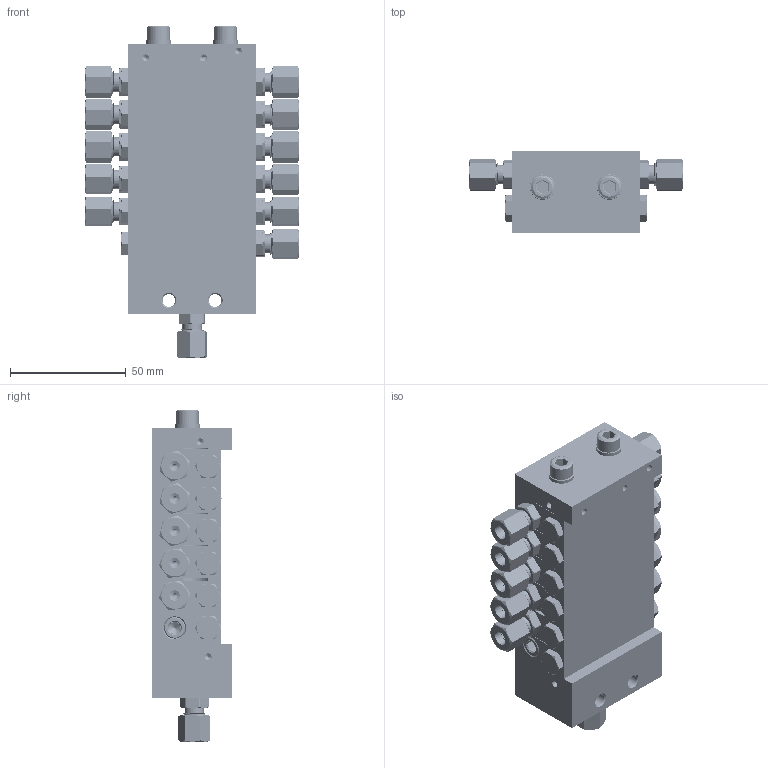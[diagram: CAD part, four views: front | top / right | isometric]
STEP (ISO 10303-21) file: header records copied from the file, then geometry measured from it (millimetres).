
FILE_DESCRIPTION (( 'STEP AP214' ), '1' );
FILE_NAME ('STW_XV_0143_11_050_11_Auslässe.STEP', '2026-01-28T14:58:48', ( '' ), ( '' ), 'SwSTEP 2.0', 'SolidWorks 2022', '' );
FILE_SCHEMA (( 'AUTOMOTIVE_DESIGN' ));
Length unit declared in the file: millimetre
Products named in the file (15): 991214010601_Mutter; STW_XV_Verbindungsstopen; STW_XV_Kolbenanschlag; 991214010601; Verschlussstopfen_1_8; M6X65_DIN_912; XV_Mittelelement; STW_XV_ENGANG; STW_XV_MITTEL_1; 991214010601_Koerper; STW_XV_0143_11_050_11_Auslässe; U_Scheibe_6; STW_XV_END; Verschlussstopfen_1_8_2; 991214010601_Schneidring
Assembly tree (49 placements, depth 3):
  STW_XV_0143_11_050_11_Auslässe
    STW_XV_ENGANG
    STW_XV_MITTEL_1  x3
    STW_XV_END
    Verschlussstopfen_1_8_2  x6
    STW_XV_Kolbenanschlag  x6
    STW_XV_Verbindungsstopen  x3
    M6X65_DIN_912  x2
    U_Scheibe_6  x2
    991214010601  x12
      991214010601_Koerper
      991214010601_Schneidring
      991214010601_Mutter
    XV_Mittelelement  x3
      STW_XV_MITTEL_1
      STW_XV_Kolbenanschlag
      Verschlussstopfen_1_8_2
      STW_XV_Verbindungsstopen
    Verschlussstopfen_1_8
Bounding box: 92.76 x 35 x 143.68 mm (x, y, z)
Volume: 210393.3 mm3; surface area: 121812.2 mm2
Topology: 79 solids, 79 shells, 2550 faces, 6455 edges, 4144 vertices
Faces by surface type: plane 1156, cylinder 767, cone 447, bspline 168, torus 12
Full cylindrical faces by diameter (mm): 2 x161, 3 x13, 4.5 x12, 5 x65, 5.5 x2, 5.9 x2, 6 x14, 6.2 x26, 6.4 x2, 6.5 x12, 7 x12, 7.4 x12, 7.67 x12, 8 x24, 8.3 x12, 8.4 x6, 8.6 x30, 9 x25, 9.7 x13, 9.73 x6, 9.8 x84, 10 x14, 11 x2, 15 x1
Entity records: 41450 total; most frequent: CARTESIAN_POINT 20637, ORIENTED_EDGE 2808, DIRECTION 2411, EDGE_CURVE 1404, VERTEX_POINT 997, EDGE_LOOP 925, AXIS2_PLACEMENT_3D 847, FACE_OUTER_BOUND 744
